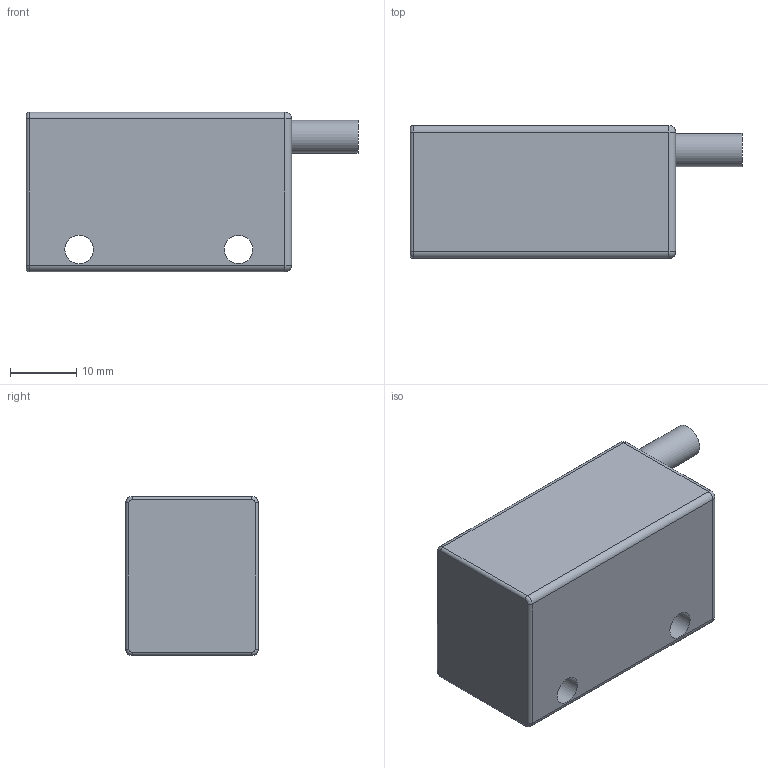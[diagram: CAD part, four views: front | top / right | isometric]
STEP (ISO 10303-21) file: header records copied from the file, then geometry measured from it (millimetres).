
FILE_DESCRIPTION(/* description */ (''),/* implementation_level */ '2;1');
FILE_NAME(/* name */ 'HNSC-C-LP24.step',/* time_stamp */ '2024-10-08T15:01:38+02:00',/* author */ (''),/* organization */ (''),/* preprocessor_version */ 'ST-DEVELOPER v20',/* originating_system */ 'Autodesk Translation Framework v13.20.0.188',/* authorisation */ '');
FILE_SCHEMA (('AUTOMOTIVE_DESIGN { 1 0 10303 214 3 1 1 }'));
Length unit declared in the file: millimetre
Products named in the file (2): Kombigehäuse z=20 und z=24; VergossenerSchalter
Assembly tree (1 placements, depth 2):
  Kombigehäuse z=20 und z=24
    VergossenerSchalter
Bounding box: 50 x 20 x 24 mm (x, y, z)
Volume: 18758.3 mm3; surface area: 4992.9 mm2
Topology: 1 solids, 1 shells, 30 faces, 61 edges, 34 vertices
Faces by surface type: cylinder 15, plane 7, bspline 4, sphere 4
Full cylindrical faces by diameter (mm): 4.3 x2, 5 x1
Entity records: 905 total; most frequent: CARTESIAN_POINT 160, DIRECTION 153, ORIENTED_EDGE 122, AXIS2_PLACEMENT_3D 63, EDGE_CURVE 61, EDGE_LOOP 35, CIRCLE 34, VERTEX_POINT 34
